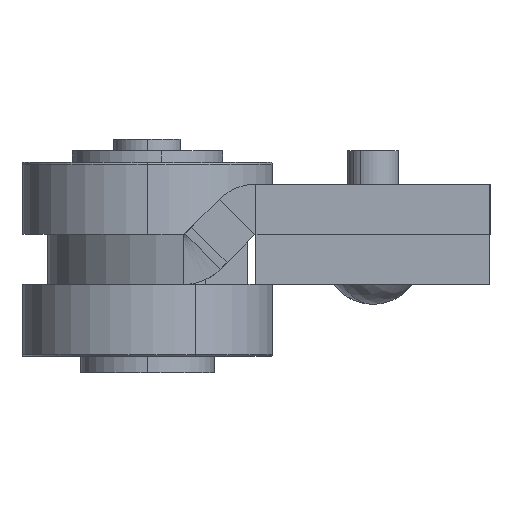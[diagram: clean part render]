
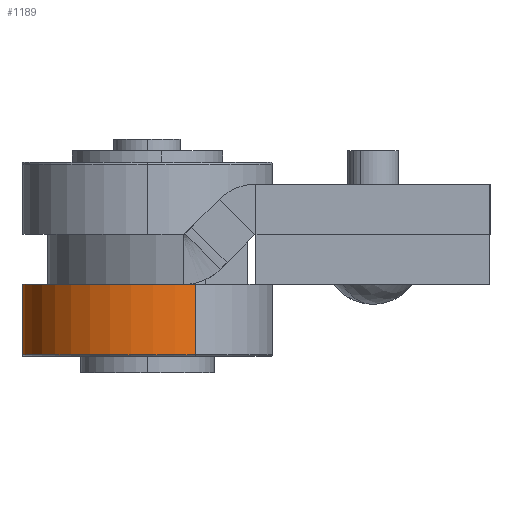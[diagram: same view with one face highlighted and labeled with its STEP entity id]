
A CAD part, left-side view. The second image highlights one B-rep face of the part: STEP entity #1189.
In plain terms, the highlighted cylindrical face has radius 7.5 mm (diameter 15 mm), a partial arc.
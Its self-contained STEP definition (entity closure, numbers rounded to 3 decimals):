
#16 = VERTEX_POINT ( 'NONE', #935 ) ;
#36 = CARTESIAN_POINT ( 'NONE',  ( 7.5, 0., 4.2 ) ) ;
#87 = CIRCLE ( 'NONE', #1134, 7.5 ) ;
#100 = DIRECTION ( 'NONE',  ( 1., 0., 0. ) ) ;
#156 = LINE ( 'NONE', #425, #1413 ) ;
#160 = FACE_OUTER_BOUND ( 'NONE', #2042, .T. ) ;
#191 = DIRECTION ( 'NONE',  ( -1., 0., 0. ) ) ;
#193 = AXIS2_PLACEMENT_3D ( 'NONE', #826, #1289, #191 ) ;
#280 = CARTESIAN_POINT ( 'NONE',  ( 0., 0., 0. ) ) ;
#307 = ORIENTED_EDGE ( 'NONE', *, *, #2258, .T. ) ;
#425 = CARTESIAN_POINT ( 'NONE',  ( -7.5, 0., 4.3 ) ) ;
#826 = CARTESIAN_POINT ( 'NONE',  ( 0., 0., 4.3 ) ) ;
#935 = CARTESIAN_POINT ( 'NONE',  ( -7.5, 0., 0. ) ) ;
#951 = VECTOR ( 'NONE', #1035, 1000. ) ;
#1015 = ORIENTED_EDGE ( 'NONE', *, *, #1627, .F. ) ;
#1035 = DIRECTION ( 'NONE',  ( 0., 0., -1. ) ) ;
#1065 = CYLINDRICAL_SURFACE ( 'NONE', #193, 7.5 ) ;
#1125 = ORIENTED_EDGE ( 'NONE', *, *, #1780, .T. ) ;
#1134 = AXIS2_PLACEMENT_3D ( 'NONE', #280, #1783, #1551 ) ;
#1150 = CARTESIAN_POINT ( 'NONE',  ( 7.5, 0., 0. ) ) ;
#1189 = ADVANCED_FACE ( 'NONE', ( #160 ), #1065, .T. ) ;
#1262 = VERTEX_POINT ( 'NONE', #36 ) ;
#1289 = DIRECTION ( 'NONE',  ( 0., 0., -1. ) ) ;
#1309 = CARTESIAN_POINT ( 'NONE',  ( -7.5, 0., 4.2 ) ) ;
#1356 = CARTESIAN_POINT ( 'NONE',  ( 0., 0., 4.2 ) ) ;
#1413 = VECTOR ( 'NONE', #1943, 1000. ) ;
#1476 = CARTESIAN_POINT ( 'NONE',  ( 7.5, 0., 4.3 ) ) ;
#1516 = EDGE_CURVE ( 'NONE', #1824, #16, #156, .T. ) ;
#1551 = DIRECTION ( 'NONE',  ( 1., 0., 0. ) ) ;
#1627 = EDGE_CURVE ( 'NONE', #1262, #2575, #2330, .T. ) ;
#1780 = EDGE_CURVE ( 'NONE', #16, #2575, #87, .T. ) ;
#1783 = DIRECTION ( 'NONE',  ( 0., 0., 1. ) ) ;
#1824 = VERTEX_POINT ( 'NONE', #1309 ) ;
#1846 = CIRCLE ( 'NONE', #2689, 7.5 ) ;
#1943 = DIRECTION ( 'NONE',  ( 0., 0., -1. ) ) ;
#2042 = EDGE_LOOP ( 'NONE', ( #1015, #307, #2537, #1125 ) ) ;
#2051 = DIRECTION ( 'NONE',  ( 0., 0., -1. ) ) ;
#2258 = EDGE_CURVE ( 'NONE', #1262, #1824, #1846, .T. ) ;
#2330 = LINE ( 'NONE', #1476, #951 ) ;
#2537 = ORIENTED_EDGE ( 'NONE', *, *, #1516, .T. ) ;
#2575 = VERTEX_POINT ( 'NONE', #1150 ) ;
#2689 = AXIS2_PLACEMENT_3D ( 'NONE', #1356, #2051, #100 ) ;
